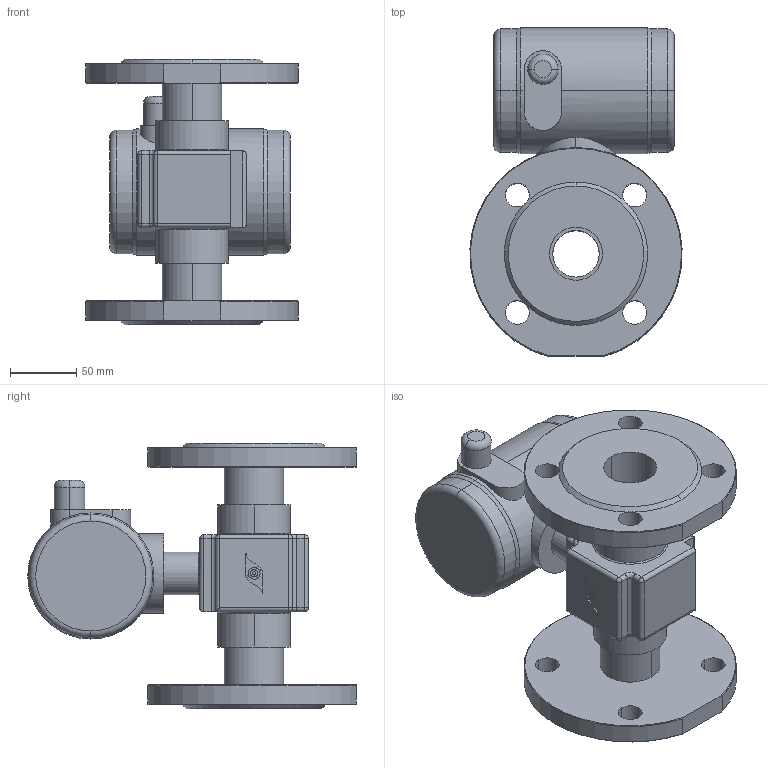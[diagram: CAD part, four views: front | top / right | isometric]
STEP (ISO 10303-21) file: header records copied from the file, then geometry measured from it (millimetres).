
FILE_DESCRIPTION (( 'STEP AP203' ), '1' );
FILE_NAME ('ÐÑ50-GOST_12820.STEP', '2015-11-06T10:47:45', ( '' ), ( '' ), 'SwSTEP 2.0', 'SolidWorks 2015', '' );
FILE_SCHEMA (( 'CONFIG_CONTROL_DESIGN' ));
Length unit declared in the file: millimetre
Products named in the file (2): 倳50-GOST_12820
Bounding box: 159.78 x 247.5 x 200 mm (x, y, z)
Volume: 1973266.1 mm3; surface area: 219957.7 mm2
Topology: 3 solids, 3 shells, 207 faces, 498 edges, 298 vertices
Faces by surface type: cylinder 92, plane 66, cone 20, torus 11, sphere 10, bspline 8
Entity records: 6422 total; most frequent: CARTESIAN_POINT 1363, DIRECTION 1103, ORIENTED_EDGE 976, EDGE_CURVE 488, AXIS2_PLACEMENT_3D 446, VERTEX_POINT 298, CIRCLE 245, EDGE_LOOP 240
